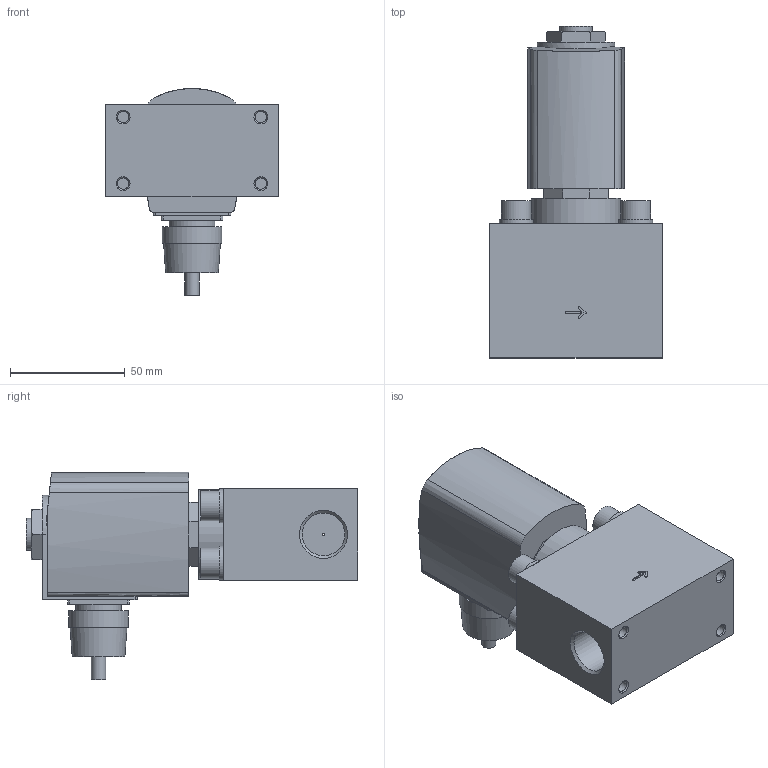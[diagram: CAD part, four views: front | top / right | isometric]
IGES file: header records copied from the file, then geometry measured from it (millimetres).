
Start section: Data from Parasolid IGES Translator 26.0.171, Copyright(c) 2006 Siemens PLM Software. All Rights Reserved.
Global section: file name: 6240-380824-2_2-way_solenoid_valve__pilot-controlled.igs; native system: By Siemens PLM Incorporated; preprocessor: XPlus GENERIC/IGES 26.0.171; author: Noname; organization: Noname; date: 20240510.124021; units: millimetre
Bounding box: 75 x 144.7 x 90.3 mm (x, y, z)
Surface area: 44231 mm2 (no closed solid volume)
Topology: 0 solids, 0 shells, 152 faces, 702 edges, 655 vertices
Faces by surface type: extrusion 94, revolution 58
